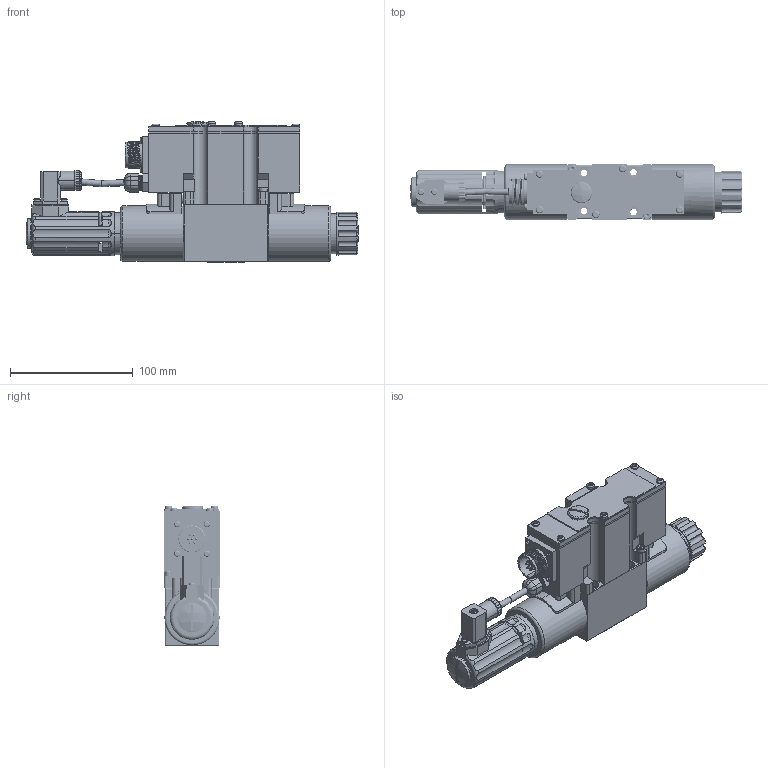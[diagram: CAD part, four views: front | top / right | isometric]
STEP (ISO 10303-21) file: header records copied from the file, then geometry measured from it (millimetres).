
FILE_DESCRIPTION(/* description */ (''),/* implementation_level */ '2;1');
FILE_NAME(/* name */ '4WREE6-2XJ比例换向阀.prt.stp',/* time_stamp */ '2022-03-30T18:36:26+08:00',/* author */ (''),/* organization */ (''),/* preprocessor_version */ 'ST-DEVELOPER v16.7',/* originating_system */ 'SIEMENS PLM Software NX 12.0',/* authorisation */ '');
FILE_SCHEMA (('AUTOMOTIVE_DESIGN { 1 0 10303 214 3 1 1 1 }'));
Products named in the file (1): 4WREE6-2XJ比例换向阀
Bounding box: 270.06 x 46 x 114.49 mm (x, y, z)
Volume: 543370.7 mm3; surface area: 172287.1 mm2
Topology: 35 solids, 36 shells, 1326 faces, 3210 edges, 1988 vertices
Faces by surface type: plane 572, cylinder 467, bspline 100, torus 95, cone 65, sphere 23, extrusion 4
Full cylindrical faces by diameter (mm): 1.8 x2, 2 x6, 2.5 x6, 3.2 x59, 3.6 x4, 4 x6, 5.3 x4, 5.5 x2, 6 x10, 6.78 x2, 7 x4, 8.1 x2, 8.7 x2, 9.4 x4, 11 x2, 12.2 x7, 12.8 x1, 14.3 x2, 14.6 x1, 14.701 x3, 14.999 x1, 16 x1, 16.999 x1, 17.2 x1, 17.4 x2, 17.8 x1, 18 x2, 18.376 x3, 20 x1, 21 x2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
Entity records: 98353 total; most frequent: CARTESIAN_POINT 69236, DIRECTION 5628, ORIENTED_EDGE 5554, EDGE_CURVE 2777, AXIS2_PLACEMENT_3D 2195, VERTEX_POINT 1817, EDGE_LOOP 1508, ADVANCED_FACE 1255
